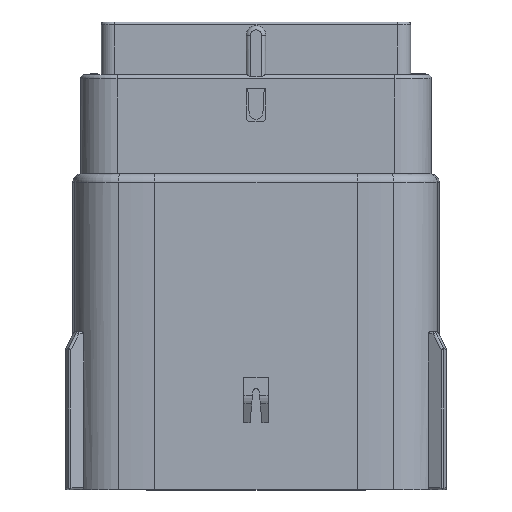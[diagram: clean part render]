
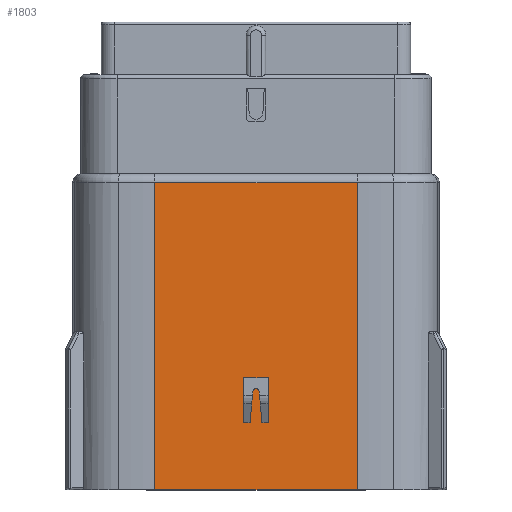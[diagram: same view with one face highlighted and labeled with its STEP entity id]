
A CAD part, top view. The second image highlights one B-rep face of the part: STEP entity #1803.
In plain terms, the highlighted planar face has unit normal (0, 0, 1).
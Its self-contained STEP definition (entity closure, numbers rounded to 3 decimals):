
#223=FACE_BOUND('',#3895,.T.);
#224=FACE_BOUND('',#3896,.T.);
#677=CIRCLE('',#14534,0.34);
#679=CIRCLE('',#14541,0.34);
#1803=ADVANCED_FACE('',(#223,#224),#2322,.T.);
#2322=PLANE('',#15277);
#3895=EDGE_LOOP('',(#7601,#7602,#7603,#7604,#7605,#7606,#7607,#7608,#7609,
#7610));
#3896=EDGE_LOOP('',(#7611,#7612,#7613,#7614));
#7601=ORIENTED_EDGE('',*,*,#9904,.T.);
#7602=ORIENTED_EDGE('',*,*,#9908,.T.);
#7603=ORIENTED_EDGE('',*,*,#9900,.F.);
#7604=ORIENTED_EDGE('',*,*,#9914,.T.);
#7605=ORIENTED_EDGE('',*,*,#9915,.T.);
#7606=ORIENTED_EDGE('',*,*,#9897,.F.);
#7607=ORIENTED_EDGE('',*,*,#9894,.T.);
#7608=ORIENTED_EDGE('',*,*,#9891,.T.);
#7609=ORIENTED_EDGE('',*,*,#9887,.T.);
#7610=ORIENTED_EDGE('',*,*,#9918,.T.);
#7611=ORIENTED_EDGE('',*,*,#11166,.F.);
#7612=ORIENTED_EDGE('',*,*,#10635,.F.);
#7613=ORIENTED_EDGE('',*,*,#11165,.F.);
#7614=ORIENTED_EDGE('',*,*,#11167,.T.);
#8407=VERTEX_POINT('',#20837);
#8408=VERTEX_POINT('',#20838);
#8411=VERTEX_POINT('',#20846);
#8412=VERTEX_POINT('',#20851);
#8414=VERTEX_POINT('',#20857);
#8415=VERTEX_POINT('',#20861);
#8417=VERTEX_POINT('',#20864);
#8420=VERTEX_POINT('',#20871);
#8421=VERTEX_POINT('',#20873);
#8426=VERTEX_POINT('',#20890);
#8898=VERTEX_POINT('',#22381);
#8900=VERTEX_POINT('',#22387);
#9215=VERTEX_POINT('',#23874);
#9216=VERTEX_POINT('',#23878);
#9887=EDGE_CURVE('',#8407,#8408,#677,.T.);
#9891=EDGE_CURVE('',#8411,#8407,#11673,.T.);
#9894=EDGE_CURVE('',#8412,#8411,#11676,.T.);
#9897=EDGE_CURVE('',#8412,#8414,#11679,.T.);
#9900=EDGE_CURVE('',#8415,#8417,#11682,.T.);
#9904=EDGE_CURVE('',#8421,#8420,#679,.T.);
#9908=EDGE_CURVE('',#8420,#8417,#11687,.T.);
#9914=EDGE_CURVE('',#8415,#8426,#11692,.T.);
#9915=EDGE_CURVE('',#8426,#8414,#11693,.T.);
#9918=EDGE_CURVE('',#8408,#8421,#11696,.T.);
#10635=EDGE_CURVE('',#8898,#8900,#12326,.T.);
#11165=EDGE_CURVE('',#9215,#8898,#12627,.T.);
#11166=EDGE_CURVE('',#8900,#9216,#12628,.T.);
#11167=EDGE_CURVE('',#9215,#9216,#12629,.T.);
#11673=LINE('',#20845,#13057);
#11676=LINE('',#20850,#13060);
#11679=LINE('',#20856,#13063);
#11682=LINE('',#20863,#13066);
#11687=LINE('',#20880,#13071);
#11692=LINE('',#20891,#13076);
#11693=LINE('',#20893,#13077);
#11696=LINE('',#20898,#13080);
#12326=LINE('',#22386,#13710);
#12627=LINE('',#23875,#14011);
#12628=LINE('',#23877,#14012);
#12629=LINE('',#23879,#14013);
#13057=VECTOR('',#16642,1.);
#13060=VECTOR('',#16647,1.);
#13063=VECTOR('',#16652,1.);
#13066=VECTOR('',#16657,1.);
#13071=VECTOR('',#16672,1.);
#13076=VECTOR('',#16683,1.);
#13077=VECTOR('',#16686,1.);
#13080=VECTOR('',#16693,1.);
#13710=VECTOR('',#18005,1.);
#14011=VECTOR('',#19074,1.);
#14012=VECTOR('',#19077,1.);
#14013=VECTOR('',#19078,1.);
#14534=AXIS2_PLACEMENT_3D('',#20836,#16634,#16635);
#14541=AXIS2_PLACEMENT_3D('',#20872,#16663,#16664);
#15277=AXIS2_PLACEMENT_3D('',#23880,#19079,#19080);
#16634=DIRECTION('',(0.,0.,1.));
#16635=DIRECTION('',(0.996,0.087,0.));
#16642=DIRECTION('',(-0.087,0.996,0.));
#16647=DIRECTION('',(-1.,0.,0.));
#16652=DIRECTION('',(0.,1.,0.));
#16657=DIRECTION('',(1.,0.,0.));
#16663=DIRECTION('',(0.,0.,1.));
#16664=DIRECTION('',(0.,1.,0.));
#16672=DIRECTION('',(-0.087,-0.996,0.));
#16683=DIRECTION('',(0.,1.,0.));
#16686=DIRECTION('',(1.,0.,0.));
#16693=DIRECTION('',(-1.,0.,0.));
#18005=DIRECTION('',(1.,0.,0.));
#19074=DIRECTION('',(0.,1.,0.));
#19077=DIRECTION('',(0.,-1.,0.));
#19078=DIRECTION('',(1.,0.,0.));
#19079=DIRECTION('',(0.,0.,1.));
#19080=DIRECTION('',(0.,1.,0.));
#20836=CARTESIAN_POINT('',(11.717,-16.279,19.343));
#20837=CARTESIAN_POINT('',(12.056,-16.249,19.343));
#20838=CARTESIAN_POINT('',(11.717,-15.939,19.343));
#20845=CARTESIAN_POINT('',(12.373,-19.871,19.343));
#20846=CARTESIAN_POINT('',(12.373,-19.871,19.343));
#20850=CARTESIAN_POINT('',(13.084,-19.871,19.343));
#20851=CARTESIAN_POINT('',(13.084,-19.871,19.343));
#20856=CARTESIAN_POINT('',(13.084,-19.871,19.343));
#20857=CARTESIAN_POINT('',(13.084,-14.823,19.343));
#20861=CARTESIAN_POINT('',(10.284,-19.871,19.343));
#20863=CARTESIAN_POINT('',(10.284,-19.871,19.343));
#20864=CARTESIAN_POINT('',(10.995,-19.871,19.343));
#20871=CARTESIAN_POINT('',(11.312,-16.249,19.343));
#20872=CARTESIAN_POINT('',(11.651,-16.279,19.343));
#20873=CARTESIAN_POINT('',(11.651,-15.939,19.343));
#20880=CARTESIAN_POINT('',(11.312,-16.249,19.343));
#20890=CARTESIAN_POINT('',(10.284,-14.823,19.343));
#20891=CARTESIAN_POINT('',(10.284,-19.871,19.343));
#20893=CARTESIAN_POINT('',(10.284,-14.823,19.343));
#20898=CARTESIAN_POINT('',(11.717,-15.939,19.343));
#22381=CARTESIAN_POINT('',(0.,7.891,19.343));
#22386=CARTESIAN_POINT('',(0.,7.891,19.343));
#22387=CARTESIAN_POINT('',(23.368,7.891,19.343));
#23874=CARTESIAN_POINT('',(0.,-27.589,19.343));
#23875=CARTESIAN_POINT('',(0.,-27.589,19.343));
#23877=CARTESIAN_POINT('',(23.368,7.891,19.343));
#23878=CARTESIAN_POINT('',(23.368,-27.589,19.343));
#23879=CARTESIAN_POINT('',(0.,-27.589,19.343));
#23880=CARTESIAN_POINT('',(-8.084,-3.052,19.343));
